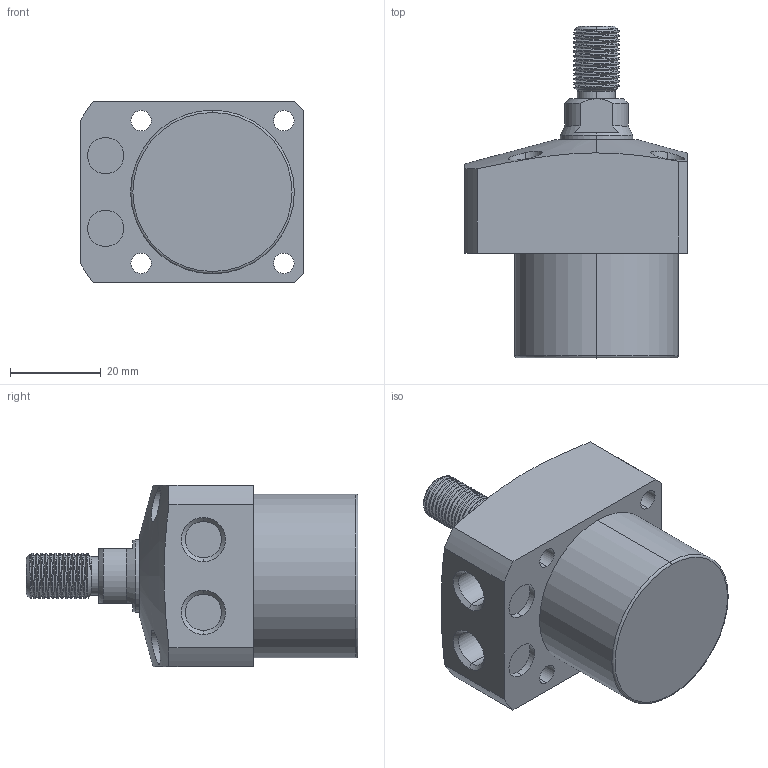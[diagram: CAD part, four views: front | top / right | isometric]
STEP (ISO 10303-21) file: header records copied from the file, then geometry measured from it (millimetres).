
FILE_DESCRIPTION (( 'STEP AP203' ), '1' );
FILE_NAME ('CLL-036CT-(1-14).STEP', '2020-01-08T08:24:23', ( '' ), ( '' ), 'SwSTEP 2.0', 'SolidWorks 2015', '' );
FILE_SCHEMA (( 'CONFIG_CONTROL_DESIGN' ));
Length unit declared in the file: millimetre
Products named in the file (1): CLL-036CT-(1-14)
Bounding box: 49 x 73 x 40 mm (x, y, z)
Volume: 66310.5 mm3; surface area: 13260.6 mm2
Topology: 1 solids, 1 shells, 103 faces, 256 edges, 166 vertices
Faces by surface type: cylinder 61, plane 23, cone 15, torus 2, bspline 2
Entity records: 5006 total; most frequent: CARTESIAN_POINT 2610, ORIENTED_EDGE 512, DIRECTION 457, EDGE_CURVE 256, AXIS2_PLACEMENT_3D 184, VERTEX_POINT 166, EDGE_LOOP 122, ADVANCED_FACE 103
